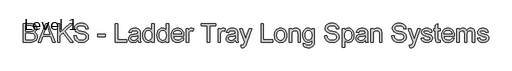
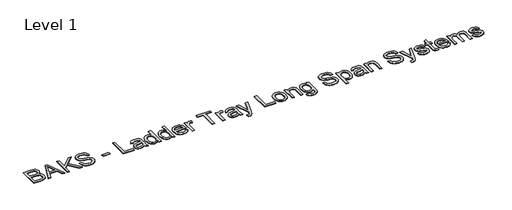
# One storey, part 88 of 106: 1 proxy.
"""IFC4 building model written with IfcOpenShell, lengths in millimetres."""

from ifc_helpers import new_model, si_unit, origin, origin_with_axes, place, context, project, spatial, polyline, outline, extrude, element, save

model = new_model("IFC4")

# Units and contexts
model_context = context("Model", 3, world=origin())
ifc_project = project(units=[si_unit("LENGTHUNIT", "METRE", prefix="MILLI")], contexts=[model_context])

# Site, building, storey
site = spatial("IfcSite", under=ifc_project)
building = spatial("IfcBuilding", under=site)
storey = spatial("IfcBuildingStorey", under=building, Name="Level 1", Elevation=0.0)

# Proxy
placement = place(None, origin())
element("IfcBuildingElementProxy", 1, Name="600mm Arial", ObjectType="600mm Arial", at=placement, inside=storey, context=model_context, shape_type="SweptSolid", body=[
    extrude(outline(polyline([(85269.4887979, 74616.626612), (85269.4887979, 75219.3644729), (85499.4886212, 75219.3644729), (85562.7459303, 75214.9314948), (85612.1340882, 75201.6325607), (85632.2112481, 75191.5755867), (85649.9891455, 75179.1365767), (85665.4677804, 75164.3155308), (85678.6471529, 75147.112449), (85696.6917648, 75109.4413327), (85702.7066354, 75070.0043828), (85697.6482579, 75033.712824), (85682.4731256, 74999.5917689), (85657.0708739, 74969.738145), (85621.331138, 74946.2488796), (85644.0708439, 74936.5551891), (85664.0238436, 74923.9552307), (85681.1901372, 74908.4490046), (85695.5697247, 74890.0365108), (85706.9326798, 74869.2787692), (85715.0490763, 74846.7368), (85719.9189142, 74822.410603), (85721.5421935, 74796.3001784), (85717.1092155, 74754.2696605), (85703.8102814, 74715.2925631), (85683.9630477, 74682.1463953), (85659.8851711, 74657.6086662), (85630.3994292, 74639.8399659), (85594.3285996, 74627.0008842), (85550.4954599, 74619.22018), (85497.7227877, 74616.626612), (85269.4887979, 74616.626612)]), holes=[polyline([(85344.8310305, 74974.5022169), (85482.4188967, 74974.5022169), (85530.5378616, 74976.1208977), (85562.7643244, 74980.97694), (85590.8889029, 74992.1421585), (85611.1040186, 75008.8623952), (85623.2993067, 75030.8801326), (85627.3644028, 75057.9378534), (85623.5752182, 75084.2046278), (85612.2076646, 75107.0868879), (85593.7767766, 75124.9475588), (85568.7975891, 75136.1495656), (85530.4642852, 75142.0540716), (85471.971048, 75144.0222403), (85344.8310305, 75144.0222403), (85344.8310305, 74974.5022169)]), polyline([(85344.8310305, 74691.9688446), (85499.3414684, 74691.9688446), (85555.2595317, 74694.9119005), (85581.2136065, 74701.441806), (85602.5691563, 74711.3194375), (85619.9331865, 74725.4645002), (85633.9127023, 74744.7966991), (85643.1281463, 74768.4515114), (85646.1999609, 74795.5644144), (85642.5947174, 74827.0551132), (85631.7789867, 74854.1312281), (85612.8882463, 74875.3028369), (85585.0579733, 74889.0800176), (85545.6394175, 74896.6399926), (85491.9838285, 74899.1599843), (85344.8310305, 74899.1599843), (85344.8310305, 74691.9688446)])]), origin_with_axes(), (0.0, 0.0, 1.0), 15.0),
    extrude(outline(polyline([(85755.0930315, 74616.626612), (85995.6878563, 75219.3644729), (86059.8464763, 75219.3644729), (86300.2941483, 74616.626612), (86220.6844846, 74616.626612), (86151.8169751, 74804.9821935), (85903.4230519, 74804.9821935), (85834.5555425, 74616.626612), (85755.0930315, 74616.626612)]), holes=[polyline([(85931.087778, 74880.3244261), (86124.2994019, 74880.3244261), (86069.8528666, 75028.5072938), (86027.6200135, 75144.0222403), (85990.09605, 75041.45674), (85931.087778, 74880.3244261)])]), origin_with_axes(), (0.0, 0.0, 1.0), 15.0),
    extrude(outline(polyline([(86380.7867289, 74616.626612), (86380.7867289, 75219.3644729), (86456.1289615, 75219.3644729), (86456.1289615, 74924.3231127), (86765.1498375, 75219.3644729), (86870.5112409, 75219.3644729), (86610.9337051, 74971.5591609), (86879.9290199, 74616.626612), (86787.8113684, 74616.626612), (86557.5172394, 74920.6442928), (86456.1289615, 74823.8177517), (86456.1289615, 74616.626612), (86380.7867289, 74616.626612)])), origin_with_axes(), (0.0, 0.0, 1.0), 15.0),
    extrude(outline(polyline([(86908.1823572, 74823.8177517), (86983.5245898, 74823.8177517), (86992.1698167, 74782.0079629), (87007.8048015, 74748.4019426), (87032.1953777, 74721.730498), (87067.1073791, 74700.7244361), (87109.7816905, 74687.0944081), (87157.4591971, 74682.5510655), (87199.4345328, 74685.9907622), (87236.1859441, 74696.3098521), (87265.9659916, 74712.6438127), (87287.0272358, 74734.1281212), (87299.5536177, 74758.794609), (87303.7290784, 74784.6751074), (87300.6020814, 74809.8934181), (87291.2210906, 74831.6904264), (87272.1648032, 74850.2868612), (87240.0119168, 74865.9034519), (87130.3095059, 74894.6718239), (87058.2966053, 74913.7097172), (87012.2193854, 74931.8279054), (86974.713816, 74957.1749749), (86948.1343419, 74987.8931215), (86932.297022, 75023.3201576), (86927.0179153, 75062.7938957), (86928.6503917, 75085.2300989), (86933.5478207, 75106.921341), (86941.7102025, 75127.8676221), (86953.137537, 75148.0689422), (86967.7010655, 75166.7021653), (86985.2720293, 75182.9441553), (87005.8504284, 75196.7949125), (87029.4362628, 75208.2544366), (87082.4480583, 75223.6502981), (87141.1252365, 75228.7822519), (87204.6952453, 75223.4111748), (87260.319003, 75207.2979434), (87284.6543969, 75195.2957933), (87306.0099468, 75180.7736516), (87324.3856524, 75163.7315181), (87339.7815139, 75144.1693931), (87352.0779696, 75122.6574934), (87361.1554578, 75099.7660362), (87367.0139786, 75075.4950216), (87369.6535319, 75049.8444495), (87294.3112993, 75049.8444495), (87289.271316, 75073.8855379), (87280.4789363, 75094.7996293), (87267.9341603, 75112.5867238), (87251.6369879, 75127.2468213), (87231.2839165, 75138.7063454), (87206.5714435, 75146.8917198), (87177.4995688, 75151.8029445), (87144.0682925, 75153.4400193), (87109.5701584, 75151.8213386), (87080.0936135, 75146.9652962), (87055.6386579, 75138.8718923), (87036.2052915, 75127.5411269), (87021.3980412, 75113.920296), (87010.8214338, 75098.9566958), (87004.4754694, 75082.6503264), (87002.3601479, 75065.0011877), (87003.8592671, 75049.8168583), (87008.3566245, 75036.0488747), (87015.8522201, 75023.6972367), (87026.346054, 75012.7619444), (87042.8639556, 75002.4060662), (87068.8732127, 74991.9398234), (87149.3657932, 74970.6762441), (87232.4335477, 74950.4795226), (87282.6862283, 74932.857975), (87325.6364512, 74905.5243428), (87342.2417248, 74889.4570966), (87355.6004397, 74871.7895638), (87365.8689459, 74852.6137148), (87373.2035932, 74832.0215201), (87379.071311, 74786.5880937), (87377.3836523, 74763.0206534), (87372.3206764, 74740.1429919), (87363.8823831, 74717.955109), (87352.0687726, 74696.4570049), (87337.0867783, 74676.4810126), (87319.143334, 74658.859465), (87298.2384396, 74643.5923622), (87274.3720952, 74630.6797042), (87248.2386779, 74620.411198), (87220.5325652, 74613.0765507), (87160.4022531, 74607.2088329), (87121.8620155, 74608.7907255), (87086.5867307, 74613.5364032), (87054.5763986, 74621.4458661), (87025.8310192, 74632.5191142), (87000.1758486, 74646.7745415), (86977.4361428, 74664.2305421), (86957.6119018, 74684.8871162), (86940.7031255, 74708.7442636), (86927.0822947, 74735.0294321), (86917.1218897, 74762.9700697), (86910.8219105, 74792.5661762), (86908.1823572, 74823.8177517)])), origin_with_axes(), (0.0, 0.0, 1.0), 15.0),
    extrude(outline(polyline([(87680.4402415, 74795.5644144), (87680.4402415, 74870.906647), (87915.8847184, 74870.906647), (87915.8847184, 74795.5644144), (87680.4402415, 74795.5644144)])), origin_with_axes(), (0.0, 0.0, 1.0), 15.0),
    extrude(outline(polyline([(88245.506986, 74616.626612), (88245.506986, 75219.3644729), (88320.8492187, 75219.3644729), (88320.8492187, 74691.9688446), (88622.2181491, 74691.9688446), (88622.2181491, 74616.626612), (88245.506986, 74616.626612)])), origin_with_axes(), (0.0, 0.0, 1.0), 15.0),
    extrude(outline(polyline([(88980.093754, 74673.1332864), (88944.0965008, 74642.267987), (88907.0323898, 74622.0712655), (88868.0552924, 74610.924441), (88826.31908, 74607.2088329), (88792.7728406, 74609.443716), (88763.3560766, 74616.1483654), (88738.0687879, 74627.322781), (88716.9109747, 74642.9669628), (88700.2045336, 74662.0876295), (88688.2713613, 74683.6914997), (88681.111458, 74707.7785733), (88678.7248236, 74734.3488504), (88682.3300671, 74765.5820318), (88693.1457978, 74793.9457336), (88709.8292463, 74818.2259453), (88731.0376433, 74837.2086563), (88755.9616484, 74851.5560541), (88783.7919214, 74861.9303264), (88848.9806109, 74873.2610918), (88926.0151007, 74885.1804684), (88979.6522956, 74899.1599843), (88980.093754, 74915.9354032), (88974.9066179, 74949.5598176), (88968.4226977, 74962.0126231), (88959.3452095, 74971.5591609), (88943.6550424, 74981.0873046), (88924.5435727, 74987.8931215), (88876.0567258, 74993.337775), (88831.1751224, 74989.7141374), (88799.8315764, 74978.8432244), (88778.4576325, 74958.7384734), (88763.4848353, 74927.4133215), (88688.1426026, 74936.8311006), (88701.2208076, 74978.033884), (88720.7369474, 75010.4074996), (88748.512038, 75035.1659579), (88786.3670954, 75053.5232694), (88832.6650444, 75064.8908231), (88885.7688104, 75068.6800076), (88936.7020727, 75065.3322815), (88977.0771217, 75055.289103), (89007.5193568, 75040.1875471), (89028.6541774, 75021.6646887), (89042.6704814, 74998.7640345), (89051.7571667, 74970.5290913), (89055.4359866, 74904.6046378), (89055.4359866, 74810.8683054), (89059.2619594, 74679.9758915), (89064.9273421, 74647.6206701), (89074.2715448, 74616.626612), (88998.9293122, 74616.626612), (88986.8627827, 74642.81981), (88980.093754, 74673.1332864)]), holes=[polyline([(88980.093754, 74823.8177517), (88929.4731915, 74811.2729756), (88858.5455428, 74800.7147624), (88793.7247353, 74788.5010801), (88776.8573458, 74780.1501588), (88764.367752, 74768.6354524), (88756.6422301, 74754.8398776), (88754.0670562, 74739.6463512), (88759.6772566, 74717.2423377), (88776.5078579, 74698.8850261), (88804.190978, 74686.6345557), (88842.358735, 74682.5510655), (88882.8257545, 74687.0576199), (88918.5838844, 74700.5772833), (88947.5729856, 74720.4980933), (88967.732919, 74744.2080879), (88976.6724515, 74768.6354524), (88979.6522956, 74802.4805959), (88980.093754, 74823.8177517)])]), origin_with_axes(), (0.0, 0.0, 1.0), 15.0),
    extrude(outline(polyline([(89432.1471497, 74616.626612), (89432.1471497, 74687.7014134), (89409.6051804, 74652.4859094), (89382.2991393, 74627.331978), (89350.2290264, 74612.2396192), (89313.3948416, 74607.2088329), (89288.5260188, 74609.0298488), (89264.6872655, 74614.4928964), (89241.8785818, 74623.5979758), (89220.0999677, 74636.3450869), (89200.0320048, 74652.3525522), (89182.355275, 74671.2386942), (89167.0697781, 74693.0035127), (89154.1755141, 74717.6470078), (89143.9391976, 74744.7001301), (89136.627543, 74773.6938298), (89130.7782192, 74837.5029619), (89136.1676905, 74900.5211476), (89152.3361042, 74957.4324923), (89164.4578159, 74982.7887588), (89179.2650662, 75004.9996343), (89196.7578551, 75024.0651187), (89216.9361825, 75039.985212), (89239.0872771, 75052.5391851), (89262.4983676, 75061.5063087), (89287.1694539, 75066.8865829), (89313.100536, 75068.6800076), (89349.962312, 75063.5480538), (89382.5566567, 75048.1521923), (89410.1845946, 75024.5525623), (89432.1471497, 74994.809303), (89432.1471497, 75219.3644729), (89507.4893823, 75219.3644729), (89507.4893823, 74616.626612), (89432.1471497, 74616.626612)]), holes=[polyline([(89206.1204518, 74837.7972675), (89208.2449704, 74801.2619868), (89214.6185259, 74769.6471279), (89225.2411185, 74742.9526906), (89240.1127482, 74721.178675), (89257.8722515, 74704.2790958), (89277.1584651, 74692.2079679), (89297.971389, 74684.9652911), (89320.3110232, 74682.5510655), (89342.7564234, 74684.8549265), (89363.4451871, 74691.7665095), (89382.3773143, 74703.2858145), (89399.5528049, 74719.4128414), (89413.8128307, 74740.2763491), (89423.9985635, 74766.0050961), (89430.1100031, 74796.5990825), (89432.1471497, 74832.0583083), (89430.0732149, 74870.9342382), (89423.8514107, 74904.273544), (89413.481737, 74932.0762258), (89398.9641937, 74954.3422835), (89381.411624, 74971.4028111), (89361.9368709, 74983.5889022), (89340.5399344, 74990.9005568), (89317.2208144, 74993.337775), (89294.4397218, 74990.9971258), (89273.626798, 74983.9751783), (89254.7820428, 74972.2719323), (89237.9054562, 74955.8873879), (89223.9995168, 74934.4628602), (89214.0667029, 74907.6396643), (89208.1070146, 74875.4178), (89206.1204518, 74837.7972675)])]), origin_with_axes(), (0.0, 0.0, 1.0), 15.0),
    extrude(outline(polyline([(89893.6183244, 74616.626612), (89893.6183244, 74687.7014134), (89871.0763552, 74652.4859094), (89843.7703141, 74627.331978), (89811.7002012, 74612.2396192), (89774.8660164, 74607.2088329), (89749.9971935, 74609.0298488), (89726.1584402, 74614.4928964), (89703.3497565, 74623.5979758), (89681.5711424, 74636.3450869), (89661.5031796, 74652.3525522), (89643.8264497, 74671.2386942), (89628.5409528, 74693.0035127), (89615.6466889, 74717.6470078), (89605.4103724, 74744.7001301), (89598.0987177, 74773.6938298), (89592.249394, 74837.5029619), (89597.6388652, 74900.5211476), (89613.8072789, 74957.4324923), (89625.9289906, 74982.7887588), (89640.7362409, 75004.9996343), (89658.2290298, 75024.0651187), (89678.4073573, 75039.985212), (89700.5584519, 75052.5391851), (89723.9695424, 75061.5063087), (89748.6406287, 75066.8865829), (89774.5717108, 75068.6800076), (89811.4334867, 75063.5480538), (89844.0278315, 75048.1521923), (89871.6557693, 75024.5525623), (89893.6183244, 74994.809303), (89893.6183244, 75219.3644729), (89968.960557, 75219.3644729), (89968.960557, 74616.626612), (89893.6183244, 74616.626612)]), holes=[polyline([(89667.5916266, 74837.7972675), (89669.7161451, 74801.2619868), (89676.0897007, 74769.6471279), (89686.7122933, 74742.9526906), (89701.583923, 74721.178675), (89719.3434263, 74704.2790958), (89738.6296399, 74692.2079679), (89759.4425637, 74684.9652911), (89781.7821979, 74682.5510655), (89804.2275981, 74684.8549265), (89824.9163618, 74691.7665095), (89843.848489, 74703.2858145), (89861.0239797, 74719.4128414), (89875.2840055, 74740.2763491), (89885.4697382, 74766.0050961), (89891.5811779, 74796.5990825), (89893.6183244, 74832.0583083), (89891.5443897, 74870.9342382), (89885.3225854, 74904.273544), (89874.9529117, 74932.0762258), (89860.4353685, 74954.3422835), (89842.8827988, 74971.4028111), (89823.4080457, 74983.5889022), (89802.0111091, 74990.9005568), (89778.6919891, 74993.337775), (89755.9108966, 74990.9971258), (89735.0979727, 74983.9751783), (89716.2532175, 74972.2719323), (89699.376631, 74955.8873879), (89685.4706916, 74934.4628602), (89675.5378777, 74907.6396643), (89669.5781894, 74875.4178), (89667.5916266, 74837.7972675)])]), origin_with_axes(), (0.0, 0.0, 1.0), 15.0),
    extrude(outline(polyline([(90391.8776987, 74748.475519), (90465.7484033, 74739.05774), (90454.4222364, 74709.4708305), (90439.132141, 74683.3971941), (90419.8781171, 74660.8368307), (90396.6601646, 74641.7897404), (90369.717407, 74626.6605934), (90339.2889675, 74615.8540598), (90305.3748461, 74609.3701396), (90267.9750427, 74607.2088329), (90221.2264382, 74610.9382366), (90179.5729993, 74622.1264478), (90143.014726, 74640.7734664), (90111.5516184, 74666.8792925), (90086.2505342, 74699.7173591), (90068.1783311, 74738.5610993), (90057.3350093, 74783.410513), (90053.7205687, 74834.2656003), (90057.3717975, 74886.8451345), (90068.3254839, 74933.1890688), (90086.581628, 74973.2974033), (90112.1402296, 75007.170138), (90143.5205638, 75034.080706), (90179.2419055, 75053.3025402), (90219.3042548, 75064.8356408), (90263.7076116, 75068.6800076), (90306.6808271, 75064.8448378), (90345.5429614, 75053.3393284), (90380.2940144, 75034.1634794), (90410.9339861, 75007.3172908), (90435.9453632, 74973.5181325), (90453.8106326, 74933.4833744), (90464.5297942, 74887.2130165), (90468.1028481, 74834.7070587), (90467.6613897, 74814.3999726), (90129.0628013, 74814.3999726), (90133.4268015, 74784.3348165), (90142.1042181, 74758.0036627), (90155.095051, 74735.4065112), (90172.3993004, 74716.5433619), (90193.0604729, 74701.6717322), (90216.1220755, 74691.0491396), (90241.5841081, 74684.675584), (90269.4465707, 74682.5510655), (90309.5457082, 74686.4874029), (90343.3172753, 74698.2964149), (90370.7612722, 74718.7138656), (90391.8776987, 74748.475519)]), holes=[polyline([(90129.0628013, 74889.7422052), (90392.7606155, 74889.7422052), (90382.5702842, 74929.5470371), (90373.8054957, 74945.200416), (90362.5942919, 74958.0211035), (90342.0480825, 74973.4721473), (90318.6691817, 74984.5086071), (90292.4575895, 74991.1304831), (90263.413306, 74993.337775), (90236.9212038, 74991.57654), (90212.6271966, 74986.2928348), (90190.5312842, 74977.4866596), (90170.6334668, 74965.1580142), (90153.9362227, 74949.8771158), (90141.4420305, 74932.2141815), (90133.15089, 74912.1692113), (90129.0628013, 74889.7422052)])]), origin_with_axes(), (0.0, 0.0, 1.0), 15.0),
    extrude(outline(polyline([(90543.4450807, 74616.626612), (90543.4450807, 75059.2622286), (90609.3695342, 75059.2622286), (90609.3695342, 74993.7792334), (90633.7233223, 75031.7446553), (90656.164124, 75054.1118806), (90678.6785021, 75065.0379759), (90703.2530194, 75068.6800076), (90740.7769829, 75062.8674721), (90778.8895576, 75045.4298655), (90753.7264292, 74977.8867312), (90727.2389255, 74989.4750141), (90700.7514219, 74993.337775), (90678.2554378, 74989.6221669), (90658.1506868, 74978.4753424), (90641.9086967, 74960.7434303), (90631.0009956, 74937.272559), (90621.8407339, 74895.1868587), (90618.7873133, 74849.2751857), (90618.7873133, 74616.626612), (90543.4450807, 74616.626612)])), origin_with_axes(), (0.0, 0.0, 1.0), 15.0),
    extrude(outline(polyline([(91221.5251742, 74616.626612), (91221.5251742, 75144.0222403), (91023.7518136, 75144.0222403), (91023.7518136, 75219.3644729), (91494.6407674, 75219.3644729), (91494.6407674, 75144.0222403), (91296.8674068, 75144.0222403), (91296.8674068, 74616.626612), (91221.5251742, 74616.626612)])), origin_with_axes(), (0.0, 0.0, 1.0), 15.0),
    extrude(outline(polyline([(91569.9830001, 74616.626612), (91569.9830001, 75059.2622286), (91635.9074536, 75059.2622286), (91635.9074536, 74993.7792334), (91660.2612417, 75031.7446553), (91682.7020434, 75054.1118806), (91705.2164215, 75065.0379759), (91729.7909388, 75068.6800076), (91767.3149023, 75062.8674721), (91805.427477, 75045.4298655), (91780.2643485, 74977.8867312), (91753.7768448, 74989.4750141), (91727.2893412, 74993.337775), (91704.7933572, 74989.6221669), (91684.6886062, 74978.4753424), (91668.4466161, 74960.7434303), (91657.5389149, 74937.272559), (91648.3786532, 74895.1868587), (91645.3252327, 74849.2751857), (91645.3252327, 74616.626612), (91569.9830001, 74616.626612)])), origin_with_axes(), (0.0, 0.0, 1.0), 15.0),
    extrude(outline(polyline([(92135.0497446, 74673.1332864), (92099.0524914, 74642.267987), (92061.9883804, 74622.0712655), (92023.011283, 74610.924441), (91981.2750707, 74607.2088329), (91947.7288312, 74609.443716), (91918.3120672, 74616.1483654), (91893.0247785, 74627.322781), (91871.8669653, 74642.9669628), (91855.1605242, 74662.0876295), (91843.227352, 74683.6914997), (91836.0674486, 74707.7785733), (91833.6808142, 74734.3488504), (91837.2860578, 74765.5820318), (91848.1017884, 74793.9457336), (91864.7852369, 74818.2259453), (91885.9936339, 74837.2086563), (91910.9176391, 74851.5560541), (91938.747912, 74861.9303264), (92003.9366016, 74873.2610918), (92080.9710914, 74885.1804684), (92134.6082863, 74899.1599843), (92135.0497446, 74915.9354032), (92129.8626085, 74949.5598176), (92123.3786883, 74962.0126231), (92114.3012001, 74971.5591609), (92098.611033, 74981.0873046), (92079.4995634, 74987.8931215), (92031.0127164, 74993.337775), (91986.131113, 74989.7141374), (91954.787567, 74978.8432244), (91933.4136231, 74958.7384734), (91918.4408259, 74927.4133215), (91843.0985933, 74936.8311006), (91856.1767982, 74978.033884), (91875.692938, 75010.4074996), (91903.4680287, 75035.1659579), (91941.323086, 75053.5232694), (91987.6210351, 75064.8908231), (92040.7248011, 75068.6800076), (92091.6580633, 75065.3322815), (92132.0331123, 75055.289103), (92162.4753474, 75040.1875471), (92183.610168, 75021.6646887), (92197.626472, 74998.7640345), (92206.7131573, 74970.5290913), (92210.3919773, 74904.6046378), (92210.3919773, 74810.8683054), (92214.21795, 74679.9758915), (92219.8833327, 74647.6206701), (92229.2275354, 74616.626612), (92153.8853028, 74616.626612), (92141.8187734, 74642.81981), (92135.0497446, 74673.1332864)]), holes=[polyline([(92135.0497446, 74823.8177517), (92084.4291821, 74811.2729756), (92013.5015334, 74800.7147624), (91948.6807259, 74788.5010801), (91931.8133364, 74780.1501588), (91919.3237427, 74768.6354524), (91911.5982208, 74754.8398776), (91909.0230468, 74739.6463512), (91914.6332472, 74717.2423377), (91931.4638485, 74698.8850261), (91959.1469687, 74686.6345557), (91997.3147257, 74682.5510655), (92037.7817451, 74687.0576199), (92073.5398751, 74700.5772833), (92102.5289763, 74720.4980933), (92122.6889096, 74744.2080879), (92131.6284421, 74768.6354524), (92134.6082863, 74802.4805959), (92135.0497446, 74823.8177517)])]), origin_with_axes(), (0.0, 0.0, 1.0), 15.0),
    extrude(outline(polyline([(92313.9875471, 74447.1065886), (92304.569768, 74519.652918), (92342.8294955, 74513.0310421), (92362.9526407, 74515.1095754), (92378.5876255, 74521.3451752), (92390.7645195, 74531.2963832), (92400.5133924, 74544.5217409), (92421.1147841, 74599.9983458), (92427.000896, 74618.2452927), (92266.8986517, 75059.2622286), (92346.2140099, 75059.2622286), (92431.2683272, 74813.369903), (92460.8460396, 74715.0718339), (92490.423752, 74802.0391375), (92577.6853612, 75059.2622286), (92656.4121082, 75059.2622286), (92502.3431286, 74606.0316105), (92462.3175676, 74507.7335414), (92441.8265404, 74476.3532072), (92418.6131865, 74454.6113813), (92391.6842245, 74441.9194525), (92360.0463729, 74437.6888095), (92338.1573942, 74440.0432543), (92313.9875471, 74447.1065886)])), origin_with_axes(), (0.0, 0.0, 1.0), 15.0),
    extrude(outline(polyline([(92963.8143034, 74616.626612), (92963.8143034, 75219.3644729), (93039.156536, 75219.3644729), (93039.156536, 74691.9688446), (93340.5254664, 74691.9688446), (93340.5254664, 74616.626612), (92963.8143034, 74616.626612)])), origin_with_axes(), (0.0, 0.0, 1.0), 15.0),
    extrude(outline(polyline([(93397.0321409, 74837.9444203), (93401.106434, 74895.2696322), (93413.3293133, 74944.6669871), (93433.7007788, 74986.136485), (93462.2208304, 75019.6781259), (93490.9340202, 75041.1164492), (93522.6270541, 75056.4295372), (93557.2999321, 75065.61739), (93594.9526543, 75068.6800076), (93636.5187212, 75064.9506039), (93674.1024656, 75053.7623927), (93707.7038873, 75035.1153741), (93737.3229864, 75009.009548), (93761.497432, 74976.3278313), (93778.7648932, 74937.9531407), (93789.1253699, 74893.8854762), (93792.5788621, 74844.1248378), (93791.0521518, 74803.7957741), (93786.472021, 74768.010053), (93778.8384696, 74736.7676745), (93768.1514976, 74710.0686387), (93754.5444623, 74687.0070362), (93738.1507209, 74666.6769574), (93718.9702734, 74649.0784025), (93697.0031198, 74634.2113713), (93673.1045857, 74622.3977608), (93648.1299967, 74613.9594675), (93622.0793529, 74608.8964915), (93594.9526543, 74607.2088329), (93552.7795821, 74610.924441), (93514.8463499, 74622.0712655), (93481.1529576, 74640.6493063), (93451.6994054, 74666.6585633), (93427.7824772, 74699.6575783), (93410.698957, 74739.2048928), (93400.4488449, 74785.3005068), (93397.0321409, 74837.9444203)]), holes=[polyline([(93472.3743735, 74838.0915731), (93474.5540743, 74801.5470954), (93481.0931768, 74769.9046453), (93491.9916809, 74743.1642227), (93507.2495867, 74721.3258278), (93525.8092333, 74704.3618693), (93546.6129601, 74692.2447561), (93569.6607671, 74684.9744881), (93594.9526543, 74682.5510655), (93620.1157828, 74684.9882837), (93643.0716193, 74692.2999384), (93663.8201638, 74704.4860295), (93682.3614164, 74721.546557), (93697.6193221, 74743.6010826), (93708.5178262, 74770.7691679), (93715.0569287, 74803.050813), (93717.2366295, 74840.4460178), (93715.0431331, 74875.8316672), (93708.4626439, 74906.6463829), (93697.4951619, 74932.8901647), (93682.1406872, 74954.5630127), (93663.5304567, 74971.5269712), (93642.7957078, 74983.6440845), (93619.9364403, 74990.9143524), (93594.9526543, 74993.337775), (93569.6607671, 74990.9235494), (93546.6129601, 74983.6808727), (93525.8092333, 74971.6097447), (93507.2495867, 74954.7101655), (93491.9916809, 74932.9361499), (93481.0931768, 74906.2417127), (93474.5540743, 74874.6268537), (93472.3743735, 74838.0915731)])]), origin_with_axes(), (0.0, 0.0, 1.0), 15.0),
    extrude(outline(polyline([(93877.3388738, 74616.626612), (93877.3388738, 75059.2622286), (93952.6811064, 75059.2622286), (93952.6811064, 74997.4580534), (93978.8559104, 75028.6176584), (94010.2914269, 75050.8745191), (94046.9876559, 75064.2286355), (94088.9445974, 75068.6800076), (94126.0822848, 75065.0931582), (94160.0929753, 75054.3326098), (94188.4566771, 75037.7411318), (94208.6533987, 75016.6614935), (94222.357003, 74991.1488772), (94231.2413532, 74961.2584651), (94235.2144787, 74888.41783), (94235.2144787, 74616.626612), (94159.8722461, 74616.626612), (94159.8722461, 74878.2642869), (94157.7017423, 74917.2229902), (94151.190231, 74944.9245045), (94139.1788839, 74964.7717381), (94120.5088726, 74980.1675996), (94096.5781488, 74990.0452312), (94068.7846641, 74993.337775), (94045.9070025, 74991.489168), (94024.6572188, 74985.9433469), (94005.0353129, 74976.7003118), (93987.0412848, 74963.7600626), (93972.0087067, 74945.6510714), (93961.271151, 74920.9018102), (93954.8286176, 74889.5122789), (93952.6811064, 74851.4824777), (93952.6811064, 74616.626612), (93877.3388738, 74616.626612)])), origin_with_axes(), (0.0, 0.0, 1.0), 15.0),
    extrude(outline(polyline([(94319.9744904, 74578.9554957), (94395.316723, 74569.5377166), (94403.6308561, 74545.9932689), (94419.7440875, 74529.8064611), (94451.4187273, 74517.2248969), (94492.8790281, 74513.0310421), (94537.098444, 74517.7767199), (94554.9591148, 74523.708817), (94569.9870943, 74532.0137531), (94592.795778, 74554.8224368), (94606.7752938, 74585.283066), (94610.858784, 74617.6934698), (94611.9256418, 74673.1332864), (94586.8544838, 74648.4116164), (94558.8770581, 74630.7532806), (94527.9933646, 74620.1582791), (94494.2034033, 74616.626612), (94452.8948538, 74620.7376933), (94416.52512, 74633.0709372), (94385.0942021, 74653.6263436), (94358.6020999, 74682.4039127), (94337.5822424, 74716.929638), (94322.5680585, 74754.729513), (94313.5595481, 74795.8035377), (94310.5567113, 74840.1517122), (94315.9461826, 74900.9810001), (94332.1145962, 74956.9174575), (94344.0983522, 74982.1403668), (94358.4917353, 75004.3190526), (94375.2947454, 75023.4535149), (94394.5073826, 75039.5437536), (94415.8215457, 75052.2908648), (94438.9291335, 75061.3959441), (94463.8301461, 75066.8589918), (94490.5245834, 75068.6800076), (94525.7584815, 75064.5597293), (94557.7366239, 75052.1988943), (94586.4590107, 75031.5975025), (94611.9256418, 75002.7555541), (94611.9256418, 75059.2622286), (94687.2678744, 75059.2622286), (94687.2678744, 74677.106412), (94682.1175265, 74588.8699154), (94675.6795915, 74556.0502429), (94666.6664827, 74530.7629543), (94654.8620691, 74510.3684962), (94640.0502203, 74492.2273153), (94622.2309362, 74476.3394116), (94601.4042167, 74462.7047852), (94577.7815941, 74451.7602958), (94551.5746005, 74443.9428034), (94522.7832358, 74439.252308), (94491.4075002, 74437.6888095), (94454.4951405, 74439.891503), (94421.307586, 74446.4995833), (94391.8448367, 74457.5130505), (94366.1068926, 74472.9319047), (94345.3169613, 74492.7745398), (94330.6982506, 74517.05935), (94322.2507602, 74545.7863353), (94319.9744904, 74578.9554957)]), holes=[polyline([(94385.8989439, 74845.3020602), (94387.9084993, 74808.0494096), (94393.9371655, 74776.1954274), (94403.9849425, 74749.7401134), (94418.0518303, 74728.6834677), (94435.1537446, 74712.6208201), (94454.3066009, 74701.1475004), (94475.5103994, 74694.2635085), (94498.7651401, 74691.9688446), (94521.7899544, 74694.249713), (94542.8925854, 74701.0923181), (94562.0730329, 74712.4966599), (94579.331297, 74728.4627385), (94593.5913228, 74749.3124506), (94603.7770556, 74775.3676929), (94609.8884952, 74806.6284654), (94611.9256418, 74843.0947682), (94609.8287144, 74878.0389592), (94603.5379323, 74908.4122164), (94593.0532954, 74934.2145399), (94578.3748038, 74955.4459295), (94560.7440592, 74972.0236119), (94541.4026633, 74983.8648137), (94520.3506161, 74990.9695347), (94497.5879177, 74993.337775), (94475.2068968, 74991.0063229), (94454.5641183, 74984.0119665), (94435.6595823, 74972.3547057), (94418.4932887, 74956.0345407), (94404.2332629, 74935.1250478), (94394.0475301, 74909.6998034), (94387.9360905, 74879.7588075), (94385.8989439, 74845.3020602)])]), origin_with_axes(), (0.0, 0.0, 1.0), 15.0),
    extrude(outline(polyline([(95016.8901421, 74823.8177517), (95092.2323747, 74823.8177517), (95100.8776016, 74782.0079629), (95116.5125864, 74748.4019426), (95140.9031626, 74721.730498), (95175.815164, 74700.7244361), (95218.4894754, 74687.0944081), (95266.166982, 74682.5510655), (95308.1423176, 74685.9907622), (95344.893729, 74696.3098521), (95374.6737765, 74712.6438127), (95395.7350207, 74734.1281212), (95408.2614026, 74758.794609), (95412.4368633, 74784.6751074), (95409.3098663, 74809.8934181), (95399.9288754, 74831.6904264), (95380.8725881, 74850.2868612), (95348.7197017, 74865.9034519), (95239.0172908, 74894.6718239), (95167.0043902, 74913.7097172), (95120.9271703, 74931.8279054), (95083.4216009, 74957.1749749), (95056.8421267, 74987.8931215), (95041.0048068, 75023.3201576), (95035.7257002, 75062.7938957), (95037.3581766, 75085.2300989), (95042.2556056, 75106.921341), (95050.4179874, 75127.8676221), (95061.8453219, 75148.0689422), (95076.4088504, 75166.7021653), (95093.9798142, 75182.9441553), (95114.5582133, 75196.7949125), (95138.1440477, 75208.2544366), (95191.1558432, 75223.6502981), (95249.8330214, 75228.7822519), (95313.4030302, 75223.4111748), (95369.0267878, 75207.2979434), (95393.3621818, 75195.2957933), (95414.7177316, 75180.7736516), (95433.0934373, 75163.7315181), (95448.4892988, 75144.1693931), (95460.7857545, 75122.6574934), (95469.8632427, 75099.7660362), (95475.7217635, 75075.4950216), (95478.3613168, 75049.8444495), (95403.0190842, 75049.8444495), (95397.9791009, 75073.8855379), (95389.1867212, 75094.7996293), (95376.6419451, 75112.5867238), (95360.3447728, 75127.2468213), (95339.9917014, 75138.7063454), (95315.2792284, 75146.8917198), (95286.2073537, 75151.8029445), (95252.7760774, 75153.4400193), (95218.2779433, 75151.8213386), (95188.8013984, 75146.9652962), (95164.3464428, 75138.8718923), (95144.9130764, 75127.5411269), (95130.1058261, 75113.920296), (95119.5292187, 75098.9566958), (95113.1832543, 75082.6503264), (95111.0679328, 75065.0011877), (95112.567052, 75049.8168583), (95117.0644094, 75036.0488747), (95124.560005, 75023.6972367), (95135.0538389, 75012.7619444), (95151.5717405, 75002.4060662), (95177.5809976, 74991.9398234), (95258.0735781, 74970.6762441), (95341.1413326, 74950.4795226), (95391.3940132, 74932.857975), (95434.3442361, 74905.5243428), (95450.9495096, 74889.4570966), (95464.3082246, 74871.7895638), (95474.5767308, 74852.6137148), (95481.9113781, 74832.0215201), (95487.7790959, 74786.5880937), (95486.0914372, 74763.0206534), (95481.0284613, 74740.1429919), (95472.590168, 74717.955109), (95460.7765574, 74696.4570049), (95445.7945632, 74676.4810126), (95427.8511189, 74658.859465), (95406.9462245, 74643.5923622), (95383.0798801, 74630.6797042), (95356.9464628, 74620.411198), (95329.2403501, 74613.0765507), (95269.110038, 74607.2088329), (95230.5698004, 74608.7907255), (95195.2945156, 74613.5364032), (95163.2841835, 74621.4458661), (95134.5388041, 74632.5191142), (95108.8836335, 74646.7745415), (95086.1439277, 74664.2305421), (95066.3196866, 74684.8871162), (95049.4109104, 74708.7442636), (95035.7900796, 74735.0294321), (95025.8296745, 74762.9700697), (95019.5296954, 74792.5661762), (95016.8901421, 74823.8177517)])), origin_with_axes(), (0.0, 0.0, 1.0), 15.0),
    extrude(outline(polyline([(95591.3746657, 74447.1065886), (95591.3746657, 75059.2622286), (95666.7168983, 75059.2622286), (95666.7168983, 74985.3915239), (95691.2914156, 75021.8302356), (95718.8089889, 75047.8578867), (95750.8882988, 75063.4744774), (95789.1480263, 75068.6800076), (95815.4239978, 75066.8589918), (95840.0996827, 75061.3959441), (95863.1750808, 75052.2908648), (95884.6501923, 75039.5437536), (95904.0559675, 75023.4857045), (95920.923357, 75004.4478113), (95935.2523607, 74982.4300739), (95947.0429787, 74957.4324923), (95962.8251163, 74901.9190992), (95968.0858288, 74841.3289346), (95962.1445346, 74776.8944032), (95954.7179168, 74747.2293188), (95944.3206519, 74719.2656886), (95931.0952942, 74693.7346782), (95915.1843979, 74671.3674529), (95896.587963, 74652.1640127), (95875.3059896, 74636.1243577), (95852.3823428, 74623.4738156), (95828.8608877, 74614.4377141), (95804.7416244, 74609.0160532), (95780.0245529, 74607.2088329), (95745.388463, 74612.0464811), (95714.4679813, 74626.5594258), (95687.9988718, 74648.4667987), (95666.7168983, 74675.4877312), (95666.7168983, 74447.1065886), (95591.3746657, 74447.1065886)]), holes=[polyline([(95666.7168983, 74834.4127531), (95668.7540449, 74798.1028002), (95674.8654845, 74766.8696188), (95685.0512173, 74740.7132089), (95699.3112431, 74719.6335706), (95716.4775367, 74703.4099746), (95735.3820727, 74691.8216918), (95756.0248512, 74684.8687221), (95778.4058721, 74682.5510655), (95801.1087897, 74684.9514955), (95822.1286472, 74692.1527856), (95841.4654446, 74704.1549357), (95859.1191818, 74720.9579458), (95873.8298631, 74742.8009393), (95884.3374926, 74769.9230394), (95890.6420703, 74802.3242461), (95892.7435962, 74840.0045594), (95890.6926541, 74876.0018127), (95884.5398277, 74907.1798118), (95874.2851171, 74933.5385567), (95859.9285222, 74955.0780475), (95842.7208419, 74971.8166783), (95823.9128749, 74983.7728432), (95803.5046212, 74990.9465421), (95781.4960808, 74993.337775), (95759.5565184, 74990.7947907), (95738.9137399, 74983.1658379), (95719.5677455, 74970.4509164), (95701.5185351, 74952.6500264), (95686.292819, 74930.002291), (95675.4173075, 74902.7468337), (95668.8920006, 74870.8836544), (95666.7168983, 74834.4127531)])]), origin_with_axes(), (0.0, 0.0, 1.0), 15.0),
    extrude(outline(polyline([(96335.3792128, 74673.1332864), (96299.3819595, 74642.267987), (96262.3178485, 74622.0712655), (96223.3407511, 74610.924441), (96181.6045388, 74607.2088329), (96148.0582994, 74609.443716), (96118.6415353, 74616.1483654), (96093.3542467, 74627.322781), (96072.1964334, 74642.9669628), (96055.4899923, 74662.0876295), (96043.5568201, 74683.6914997), (96036.3969168, 74707.7785733), (96034.0102823, 74734.3488504), (96037.6155259, 74765.5820318), (96048.4312565, 74793.9457336), (96065.114705, 74818.2259453), (96086.323102, 74837.2086563), (96111.2471072, 74851.5560541), (96139.0773802, 74861.9303264), (96204.2660697, 74873.2610918), (96281.3005595, 74885.1804684), (96334.9377544, 74899.1599843), (96335.3792128, 74915.9354032), (96330.1920766, 74949.5598176), (96323.7081565, 74962.0126231), (96314.6306682, 74971.5591609), (96298.9405012, 74981.0873046), (96279.8290315, 74987.8931215), (96231.3421845, 74993.337775), (96186.4605811, 74989.7141374), (96155.1170351, 74978.8432244), (96133.7430912, 74958.7384734), (96118.770294, 74927.4133215), (96043.4280614, 74936.8311006), (96056.5062663, 74978.033884), (96076.0224062, 75010.4074996), (96103.7974968, 75035.1659579), (96141.6525541, 75053.5232694), (96187.9505032, 75064.8908231), (96241.0542692, 75068.6800076), (96291.9875314, 75065.3322815), (96332.3625804, 75055.289103), (96362.8048155, 75040.1875471), (96383.9396361, 75021.6646887), (96397.9559402, 74998.7640345), (96407.0426254, 74970.5290913), (96410.7214454, 74904.6046378), (96410.7214454, 74810.8683054), (96414.5474181, 74679.9758915), (96420.2128009, 74647.6206701), (96429.5570035, 74616.626612), (96354.2147709, 74616.626612), (96342.1482415, 74642.81981), (96335.3792128, 74673.1332864)]), holes=[polyline([(96335.3792128, 74823.8177517), (96284.7586502, 74811.2729756), (96213.8310016, 74800.7147624), (96149.010194, 74788.5010801), (96132.1428045, 74780.1501588), (96119.6532108, 74768.6354524), (96111.9276889, 74754.8398776), (96109.3525149, 74739.6463512), (96114.9627154, 74717.2423377), (96131.7933166, 74698.8850261), (96159.4764368, 74686.6345557), (96197.6441938, 74682.5510655), (96238.1112133, 74687.0576199), (96273.8693432, 74700.5772833), (96302.8584444, 74720.4980933), (96323.0183777, 74744.2080879), (96331.9579102, 74768.6354524), (96334.9377544, 74802.4805959), (96335.3792128, 74823.8177517)])]), origin_with_axes(), (0.0, 0.0, 1.0), 15.0),
    extrude(outline(polyline([(96514.3170152, 74616.626612), (96514.3170152, 75059.2622286), (96589.6592478, 75059.2622286), (96589.6592478, 74997.4580534), (96615.8340518, 75028.6176584), (96647.2695683, 75050.8745191), (96683.9657973, 75064.2286355), (96725.9227389, 75068.6800076), (96763.0604263, 75065.0931582), (96797.0711167, 75054.3326098), (96825.4348186, 75037.7411318), (96845.6315401, 75016.6614935), (96859.3351444, 74991.1488772), (96868.2194946, 74961.2584651), (96872.1926201, 74888.41783), (96872.1926201, 74616.626612), (96796.8503875, 74616.626612), (96796.8503875, 74878.2642869), (96794.6798838, 74917.2229902), (96788.1683724, 74944.9245045), (96776.1570253, 74964.7717381), (96757.487014, 74980.1675996), (96733.5562903, 74990.0452312), (96705.7628055, 74993.337775), (96682.8851439, 74991.489168), (96661.6353602, 74985.9433469), (96642.0134543, 74976.7003118), (96624.0194262, 74963.7600626), (96608.9868482, 74945.6510714), (96598.2492924, 74920.9018102), (96591.806759, 74889.5122789), (96589.6592478, 74851.4824777), (96589.6592478, 74616.626612), (96514.3170152, 74616.626612)])), origin_with_axes(), (0.0, 0.0, 1.0), 15.0),
    extrude(outline(polyline([(97192.3971087, 74823.8177517), (97267.7393414, 74823.8177517), (97276.3845682, 74782.0079629), (97292.019553, 74748.4019426), (97316.4101293, 74721.730498), (97351.3221307, 74700.7244361), (97393.9964421, 74687.0944081), (97441.6739487, 74682.5510655), (97483.6492843, 74685.9907622), (97520.4006956, 74696.3098521), (97550.1807432, 74712.6438127), (97571.2419874, 74734.1281212), (97583.7683693, 74758.794609), (97587.94383, 74784.6751074), (97584.816833, 74809.8934181), (97575.4358421, 74831.6904264), (97556.3795548, 74850.2868612), (97524.2266684, 74865.9034519), (97414.5242574, 74894.6718239), (97342.5113569, 74913.7097172), (97296.434137, 74931.8279054), (97258.9285676, 74957.1749749), (97232.3490934, 74987.8931215), (97216.5117735, 75023.3201576), (97211.2326669, 75062.7938957), (97212.8651432, 75085.2300989), (97217.7625723, 75106.921341), (97225.9249541, 75127.8676221), (97237.3522886, 75148.0689422), (97251.915817, 75166.7021653), (97269.4867808, 75182.9441553), (97290.0651799, 75196.7949125), (97313.6510144, 75208.2544366), (97366.6628099, 75223.6502981), (97425.3399881, 75228.7822519), (97488.9099969, 75223.4111748), (97544.5337545, 75207.2979434), (97568.8691485, 75195.2957933), (97590.2246983, 75180.7736516), (97608.600404, 75163.7315181), (97623.9962655, 75144.1693931), (97636.2927212, 75122.6574934), (97645.3702094, 75099.7660362), (97651.2287302, 75075.4950216), (97653.8682835, 75049.8444495), (97578.5260509, 75049.8444495), (97573.4860675, 75073.8855379), (97564.6936879, 75094.7996293), (97552.1489118, 75112.5867238), (97535.8517394, 75127.2468213), (97515.4986681, 75138.7063454), (97490.786195, 75146.8917198), (97461.7143204, 75151.8029445), (97428.283044, 75153.4400193), (97393.78491, 75151.8213386), (97364.3083651, 75146.9652962), (97339.8534095, 75138.8718923), (97320.4200431, 75127.5411269), (97305.6127928, 75113.920296), (97295.0361854, 75098.9566958), (97288.690221, 75082.6503264), (97286.5748995, 75065.0011877), (97288.0740186, 75049.8168583), (97292.571376, 75036.0488747), (97300.0669717, 75023.6972367), (97310.5608056, 75012.7619444), (97327.0787072, 75002.4060662), (97353.0879642, 74991.9398234), (97433.5805448, 74970.6762441), (97516.6482993, 74950.4795226), (97566.9009798, 74932.857975), (97609.8512028, 74905.5243428), (97626.4564763, 74889.4570966), (97639.8151913, 74871.7895638), (97650.0836975, 74852.6137148), (97657.4183447, 74832.0215201), (97663.2860626, 74786.5880937), (97661.5984039, 74763.0206534), (97656.535428, 74740.1429919), (97648.0971347, 74717.955109), (97636.2835241, 74696.4570049), (97621.3015299, 74676.4810126), (97603.3580856, 74658.859465), (97582.4531912, 74643.5923622), (97558.5868467, 74630.6797042), (97532.4534295, 74620.411198), (97504.7473167, 74613.0765507), (97444.6170046, 74607.2088329), (97406.0767671, 74608.7907255), (97370.8014823, 74613.5364032), (97338.7911502, 74621.4458661), (97310.0457708, 74632.5191142), (97284.3906002, 74646.7745415), (97261.6508943, 74664.2305421), (97241.8266533, 74684.8871162), (97224.9178771, 74708.7442636), (97211.2970462, 74735.0294321), (97201.3366412, 74762.9700697), (97195.0366621, 74792.5661762), (97192.3971087, 74823.8177517)])), origin_with_axes(), (0.0, 0.0, 1.0), 15.0),
    extrude(outline(polyline([(97766.8816324, 74447.1065886), (97757.4638533, 74519.652918), (97795.7235808, 74513.0310421), (97815.846726, 74515.1095754), (97831.4817108, 74521.3451752), (97843.6586048, 74531.2963832), (97853.4074777, 74544.5217409), (97874.0088694, 74599.9983458), (97879.8949813, 74618.2452927), (97719.792737, 75059.2622286), (97799.1080952, 75059.2622286), (97884.1624125, 74813.369903), (97913.7401249, 74715.0718339), (97943.3178373, 74802.0391375), (98030.5794466, 75059.2622286), (98109.3061935, 75059.2622286), (97955.2372139, 74606.0316105), (97915.2116529, 74507.7335414), (97894.7206257, 74476.3532072), (97871.5072718, 74454.6113813), (97844.5783098, 74441.9194525), (97812.9404582, 74437.6888095), (97791.0514795, 74440.0432543), (97766.8816324, 74447.1065886)])), origin_with_axes(), (0.0, 0.0, 1.0), 15.0),
    extrude(outline(polyline([(98143.5927955, 74748.475519), (98218.9350281, 74757.8932981), (98223.4875678, 74740.7132089), (98230.8176165, 74725.6668353), (98240.9251743, 74712.7541773), (98253.8102412, 74701.9752349), (98269.5096054, 74693.4771608), (98288.060055, 74687.4071078), (98333.7142106, 74682.5510655), (98378.8165432, 74687.0024376), (98396.3461203, 74692.5666528), (98410.5279712, 74700.3565541), (98429.2899529, 74719.707147), (98433.9804484, 74730.5412718), (98435.5439468, 74742.1479487), (98433.9712513, 74752.3198859), (98429.2531647, 74761.3513889), (98410.3808184, 74775.9930923), (98382.1642693, 74785.5580242), (98332.8312938, 74797.4774008), (98264.0741489, 74817.3614226), (98219.3764865, 74834.3391767), (98190.6632968, 74852.8620352), (98169.8595699, 74877.3813702), (98157.2228234, 74906.3336832), (98153.0105745, 74938.1554758), (98156.3950889, 74967.3469121), (98166.548632, 74994.2942682), (98182.5514988, 75017.9306864), (98203.4839843, 75037.1893089), (98224.2877111, 75049.3110206), (98251.3822201, 75059.4829578), (98282.7073719, 75066.3807452), (98316.2030276, 75068.6800076), (98365.2416976, 75064.9827936), (98407.8792208, 75053.8911514), (98442.1658228, 75036.4903331), (98466.1517288, 75013.8655904), (98482.044231, 74984.3430602), (98492.0506213, 74946.2488796), (98416.7083887, 74936.8311006), (98407.1986391, 74960.5410952), (98388.3814751, 74978.401766), (98360.0729555, 74989.6037728), (98322.0891395, 74993.337775), (98278.8262169, 74989.7693197), (98249.9842685, 74979.0639536), (98233.7606725, 74963.6129098), (98228.3528072, 74945.8074213), (98230.5968873, 74934.2191384), (98237.3291278, 74923.8816543), (98248.8438343, 74914.6478163), (98265.4353123, 74907.2533882), (98330.3296962, 74891.2137332), (98440.915024, 74855.7499088), (98470.1248544, 74838.7905489), (98492.2713505, 74815.577195), (98506.2324722, 74786.0362707), (98510.8861795, 74750.0941998), (98505.4231318, 74712.9381183), (98489.0339889, 74677.9893288), (98462.3441502, 74647.9885521), (98425.979015, 74625.6765091), (98382.0539047, 74611.8257519), (98332.684141, 74607.2088329), (98292.1343481, 74609.434519), (98256.716509, 74616.1115772), (98226.4306237, 74627.2400075), (98201.2766923, 74642.81981), (98180.7304829, 74662.7774083), (98164.2677636, 74687.0392258), (98151.8885345, 74715.6052628), (98143.5927955, 74748.475519)])), origin_with_axes(), (0.0, 0.0, 1.0), 15.0),
    extrude(outline(polyline([(98755.7484354, 74679.4608567), (98765.1662145, 74614.41932), (98708.8066929, 74607.2088329), (98672.6438927, 74610.3358299), (98645.6781425, 74619.7168207), (98626.6218551, 74634.1745831), (98614.1874437, 74652.5318947), (98607.3448386, 74684.0593817), (98605.0639702, 74738.0276704), (98605.0639702, 74983.919996), (98548.5572958, 74983.919996), (98548.5572958, 75059.2622286), (98605.0639702, 75059.2622286), (98605.0639702, 75166.830924), (98680.4062028, 75211.1239162), (98680.4062028, 75059.2622286), (98755.7484354, 75059.2622286), (98755.7484354, 74983.919996), (98680.4062028, 74983.919996), (98680.4062028, 74740.2349623), (98684.3793284, 74701.3866237), (98697.2551982, 74687.627837), (98708.1261112, 74683.8202584), (98722.9333615, 74682.5510655), (98755.7484354, 74679.4608567)])), origin_with_axes(), (0.0, 0.0, 1.0), 15.0),
    extrude(outline(polyline([(99140.9944608, 74748.475519), (99214.8651654, 74739.05774), (99203.5389985, 74709.4708305), (99188.2489031, 74683.3971941), (99168.9948792, 74660.8368307), (99145.7769267, 74641.7897404), (99118.8341691, 74626.6605934), (99088.4057296, 74615.8540598), (99054.4916082, 74609.3701396), (99017.0918048, 74607.2088329), (98970.3432003, 74610.9382366), (98928.6897614, 74622.1264478), (98892.1314881, 74640.7734664), (98860.6683805, 74666.8792925), (98835.3672963, 74699.7173591), (98817.2950932, 74738.5610993), (98806.4517714, 74783.410513), (98802.8373308, 74834.2656003), (98806.4885596, 74886.8451345), (98817.442246, 74933.1890688), (98835.69839, 74973.2974033), (98861.2569917, 75007.170138), (98892.6373258, 75034.080706), (98928.3586676, 75053.3025402), (98968.4210169, 75064.8356408), (99012.8243737, 75068.6800076), (99055.7975892, 75064.8448378), (99094.6597235, 75053.3393284), (99129.4107765, 75034.1634794), (99160.0507481, 75007.3172908), (99185.0621253, 74973.5181325), (99202.9273947, 74933.4833744), (99213.6465563, 74887.2130165), (99217.2196102, 74834.7070587), (99216.7781518, 74814.3999726), (98878.1795634, 74814.3999726), (98882.5435636, 74784.3348165), (98891.2209802, 74758.0036627), (98904.2118131, 74735.4065112), (98921.5160625, 74716.5433619), (98942.177235, 74701.6717322), (98965.2388376, 74691.0491396), (98990.7008702, 74684.675584), (99018.5633328, 74682.5510655), (99058.6624703, 74686.4874029), (99092.4340374, 74698.2964149), (99119.8780343, 74718.7138656), (99140.9944608, 74748.475519)]), holes=[polyline([(98878.1795634, 74889.7422052), (99141.8773776, 74889.7422052), (99131.6870463, 74929.5470371), (99122.9222578, 74945.200416), (99111.711054, 74958.0211035), (99091.1648445, 74973.4721473), (99067.7859438, 74984.5086071), (99041.5743516, 74991.1304831), (99012.5300681, 74993.337775), (98986.0379659, 74991.57654), (98961.7439586, 74986.2928348), (98939.6480463, 74977.4866596), (98919.7502289, 74965.1580142), (98903.0529848, 74949.8771158), (98890.5587926, 74932.2141815), (98882.2676521, 74912.1692113), (98878.1795634, 74889.7422052)])]), origin_with_axes(), (0.0, 0.0, 1.0), 15.0),
    extrude(outline(polyline([(99292.5618428, 74616.626612), (99292.5618428, 75059.2622286), (99367.9040754, 75059.2622286), (99367.9040754, 74986.4215935), (99390.5656063, 75019.880461), (99419.7018603, 75046.0920531), (99454.3195561, 75063.033019), (99493.4254122, 75068.6800076), (99535.3271714, 75062.9226544), (99553.1602511, 75055.7259629), (99568.9147976, 75045.6505947), (99594.0043497, 75018.0042628), (99610.4118866, 74981.1240928), (99637.8742776, 75019.4298055), (99669.1994295, 75046.7910289), (99704.3873423, 75063.207763), (99743.4380161, 75068.6800076), (99773.5997412, 75066.4037378), (99800.0734493, 75059.5749283), (99822.8591403, 75048.193579), (99841.9568144, 75032.2596901), (99857.0537718, 75011.5893205), (99867.8373128, 74985.9985292), (99874.3074374, 74955.4873163), (99876.4641456, 74920.0556816), (99876.4641456, 74616.626612), (99801.1219129, 74616.626612), (99801.1219129, 74887.682066), (99799.3744735, 74925.2612118), (99794.132155, 74950.5898872), (99784.3097058, 74967.9355233), (99768.8218738, 74981.5655512), (99748.9010637, 74990.3947191), (99725.7796803, 74993.337775), (99704.428729, 74991.4523798), (99684.963173, 74985.7961941), (99667.3830121, 74976.369218), (99651.6882465, 74963.1714514), (99638.780187, 74945.8166183), (99629.5601445, 74923.9184425), (99624.028119, 74897.4769241), (99622.1841105, 74866.4920631), (99622.1841105, 74616.626612), (99546.8418779, 74616.626612), (99546.8418779, 74896.0697755), (99542.4824762, 74938.6705105), (99537.0332242, 74955.3907472), (99529.4042713, 74969.0575633), (99519.292115, 74979.680156), (99506.3932525, 74987.2677221), (99490.7076839, 74991.8202618), (99472.2354093, 74993.337775), (99443.2095198, 74989.2910731), (99416.4644988, 74977.1509672), (99394.3915791, 74957.2117631), (99379.3819937, 74929.7677663), (99370.773555, 74891.6919798), (99367.9040754, 74839.8574066), (99367.9040754, 74616.626612), (99292.5618428, 74616.626612)])), origin_with_axes(), (0.0, 0.0, 1.0), 15.0),
    extrude(outline(polyline([(99961.2241572, 74748.475519), (100036.5663899, 74757.8932981), (100041.1189295, 74740.7132089), (100048.4489783, 74725.6668353), (100058.5565361, 74712.7541773), (100071.441603, 74701.9752349), (100087.1409671, 74693.4771608), (100105.6914167, 74687.4071078), (100151.3455723, 74682.5510655), (100196.447905, 74687.0024376), (100213.977482, 74692.5666528), (100228.1593329, 74700.3565541), (100246.9213147, 74719.707147), (100251.6118101, 74730.5412718), (100253.1753086, 74742.1479487), (100251.6026131, 74752.3198859), (100246.8845265, 74761.3513889), (100228.0121801, 74775.9930923), (100199.7956311, 74785.5580242), (100150.4626556, 74797.4774008), (100081.7055107, 74817.3614226), (100037.0078482, 74834.3391767), (100008.2946585, 74852.8620352), (99987.4909317, 74877.3813702), (99974.8541852, 74906.3336832), (99970.6419363, 74938.1554758), (99974.0264507, 74967.3469121), (99984.1799937, 74994.2942682), (100000.1828605, 75017.9306864), (100021.1153461, 75037.1893089), (100041.9190729, 75049.3110206), (100069.0135818, 75059.4829578), (100100.3387337, 75066.3807452), (100133.8343894, 75068.6800076), (100182.8730593, 75064.9827936), (100225.5105826, 75053.8911514), (100259.7971845, 75036.4903331), (100283.7830906, 75013.8655904), (100299.6755928, 74984.3430602), (100309.6819831, 74946.2488796), (100234.3397505, 74936.8311006), (100224.8300009, 74960.5410952), (100206.0128368, 74978.401766), (100177.7043173, 74989.6037728), (100139.7205013, 74993.337775), (100096.4575787, 74989.7693197), (100067.6156302, 74979.0639536), (100051.3920343, 74963.6129098), (100045.9841689, 74945.8074213), (100048.2282491, 74934.2191384), (100054.9604896, 74923.8816543), (100066.4751961, 74914.6478163), (100083.066674, 74907.2533882), (100147.961058, 74891.2137332), (100258.5463857, 74855.7499088), (100287.7562162, 74838.7905489), (100309.9027123, 74815.577195), (100323.863834, 74786.0362707), (100328.5175412, 74750.0941998), (100323.0544936, 74712.9381183), (100306.6653507, 74677.9893288), (100279.975512, 74647.9885521), (100243.6103767, 74625.6765091), (100199.6852665, 74611.8257519), (100150.3155028, 74607.2088329), (100109.7657098, 74609.434519), (100074.3478708, 74616.1115772), (100044.0619855, 74627.2400075), (100018.9080541, 74642.81981), (99998.3618447, 74662.7774083), (99981.8991254, 74687.0392258), (99969.5198962, 74715.6052628), (99961.2241572, 74748.475519)])), origin_with_axes(), (0.0, 0.0, 1.0), 15.0),
])

save(model, "model.ifc")
